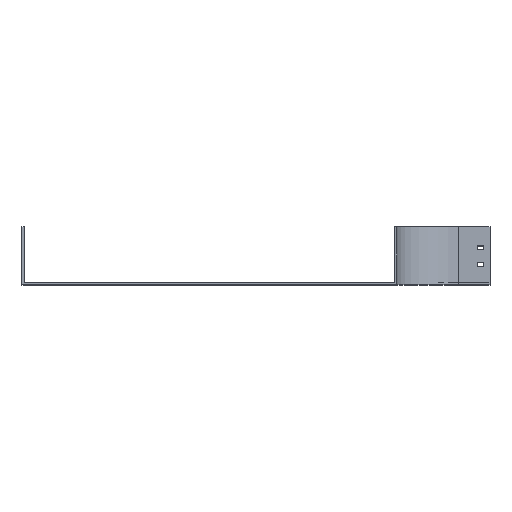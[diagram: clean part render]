
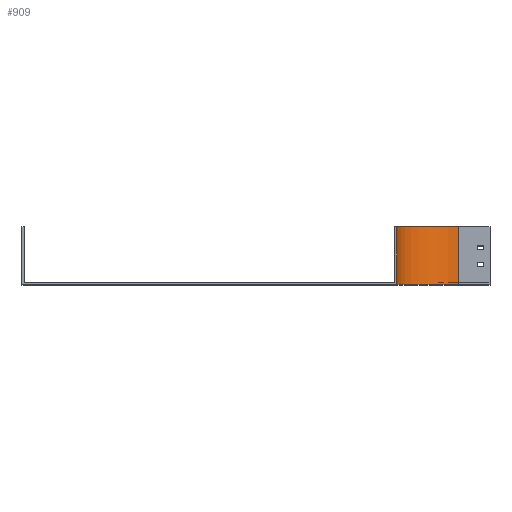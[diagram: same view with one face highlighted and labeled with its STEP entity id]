
A CAD part, top view. The second image highlights one B-rep face of the part: STEP entity #909.
In plain terms, the highlighted cylindrical face has radius 100 mm (diameter 200 mm), a partial arc.
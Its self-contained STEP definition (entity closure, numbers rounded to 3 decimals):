
#2 = VERTEX_POINT ( 'NONE', #560 ) ;
#9 = CIRCLE ( 'NONE', #2242, 100. ) ;
#39 = EDGE_LOOP ( 'NONE', ( #2273, #596, #2196, #565 ) ) ;
#53 = CYLINDRICAL_SURFACE ( 'NONE', #165, 100. ) ;
#165 = AXIS2_PLACEMENT_3D ( 'NONE', #1133, #1959, #2369 ) ;
#235 = DIRECTION ( 'NONE',  ( 0., -1., 0. ) ) ;
#373 = CARTESIAN_POINT ( 'NONE',  ( 0., 0., 0. ) ) ;
#417 = CARTESIAN_POINT ( 'NONE',  ( 0., 92.5, -100. ) ) ;
#465 = VERTEX_POINT ( 'NONE', #417 ) ;
#499 = VECTOR ( 'NONE', #2151, 1000. ) ;
#560 = CARTESIAN_POINT ( 'NONE',  ( -100., 0., 0. ) ) ;
#565 = ORIENTED_EDGE ( 'NONE', *, *, #1416, .T. ) ;
#578 = EDGE_CURVE ( 'NONE', #465, #622, #1087, .T. ) ;
#596 = ORIENTED_EDGE ( 'NONE', *, *, #578, .F. ) ;
#622 = VERTEX_POINT ( 'NONE', #778 ) ;
#778 = CARTESIAN_POINT ( 'NONE',  ( 0., 0., -100. ) ) ;
#898 = DIRECTION ( 'NONE',  ( 0., 0., -1. ) ) ;
#909 = ADVANCED_FACE ( 'NONE', ( #1974 ), #53, .F. ) ;
#1087 = LINE ( 'NONE', #1938, #2359 ) ;
#1133 = CARTESIAN_POINT ( 'NONE',  ( 0., 92.5, 0. ) ) ;
#1267 = EDGE_CURVE ( 'NONE', #1585, #465, #1598, .T. ) ;
#1341 = LINE ( 'NONE', #2349, #499 ) ;
#1397 = DIRECTION ( 'NONE',  ( 0., -1., 0. ) ) ;
#1416 = EDGE_CURVE ( 'NONE', #1585, #2, #1341, .T. ) ;
#1585 = VERTEX_POINT ( 'NONE', #2154 ) ;
#1598 = CIRCLE ( 'NONE', #2182, 100. ) ;
#1731 = CARTESIAN_POINT ( 'NONE',  ( 0., 92.5, 0. ) ) ;
#1733 = EDGE_CURVE ( 'NONE', #2, #622, #9, .T. ) ;
#1902 = DIRECTION ( 'NONE',  ( 0., 0., -1. ) ) ;
#1938 = CARTESIAN_POINT ( 'NONE',  ( 0., 92.5, -100. ) ) ;
#1959 = DIRECTION ( 'NONE',  ( 0., -1., 0. ) ) ;
#1974 = FACE_OUTER_BOUND ( 'NONE', #39, .T. ) ;
#2151 = DIRECTION ( 'NONE',  ( 0., -1., 0. ) ) ;
#2154 = CARTESIAN_POINT ( 'NONE',  ( -100., 92.5, 0. ) ) ;
#2182 = AXIS2_PLACEMENT_3D ( 'NONE', #1731, #2371, #898 ) ;
#2196 = ORIENTED_EDGE ( 'NONE', *, *, #1267, .F. ) ;
#2242 = AXIS2_PLACEMENT_3D ( 'NONE', #373, #235, #1902 ) ;
#2273 = ORIENTED_EDGE ( 'NONE', *, *, #1733, .T. ) ;
#2349 = CARTESIAN_POINT ( 'NONE',  ( -100., 92.5, 0. ) ) ;
#2359 = VECTOR ( 'NONE', #1397, 1000. ) ;
#2369 = DIRECTION ( 'NONE',  ( 0., 0., -1. ) ) ;
#2371 = DIRECTION ( 'NONE',  ( 0., -1., 0. ) ) ;
